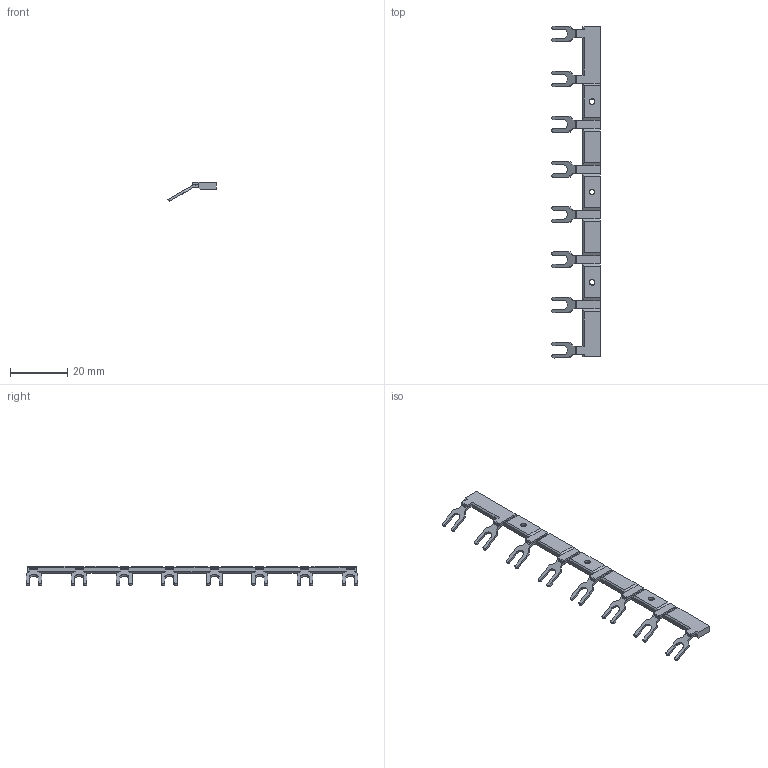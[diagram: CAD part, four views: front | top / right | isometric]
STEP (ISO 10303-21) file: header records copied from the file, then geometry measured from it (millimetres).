
FILE_DESCRIPTION (( 'STEP AP214' ), '1' );
FILE_NAME ('SR08C连接桥.STEP', '2019-08-31T01:03:45', ( 'shenler' ), ( 'Microsoft' ), 'SwSTEP 2.0', 'SolidWorks 2018', '' );
FILE_SCHEMA (( 'AUTOMOTIVE_DESIGN' ));
Length unit declared in the file: millimetre
Products named in the file (3): RGZE连接桥金属开叉折弯15.8(8片)20170525; RGZE连接桥塑料15.8(8片)加胶20170517; SR08C蟀諉Э
Assembly tree (2 placements, depth 2):
  SR08C蟀諉Э
    RGZE连接桥塑料15.8(8片)加胶20170517
    RGZE连接桥金属开叉折弯15.8(8片)20170525
Bounding box: 16.86 x 116.1 x 6.66 mm (x, y, z)
Volume: 2199.8 mm3; surface area: 4052.2 mm2
Topology: 2 solids, 2 shells, 443 faces, 1253 edges, 814 vertices
Faces by surface type: plane 284, cylinder 159
Entity records: 14407 total; most frequent: CARTESIAN_POINT 2515, ORIENTED_EDGE 2506, DIRECTION 2467, EDGE_CURVE 1253, VECTOR 935, LINE 935, VERTEX_POINT 814, AXIS2_PLACEMENT_3D 766
